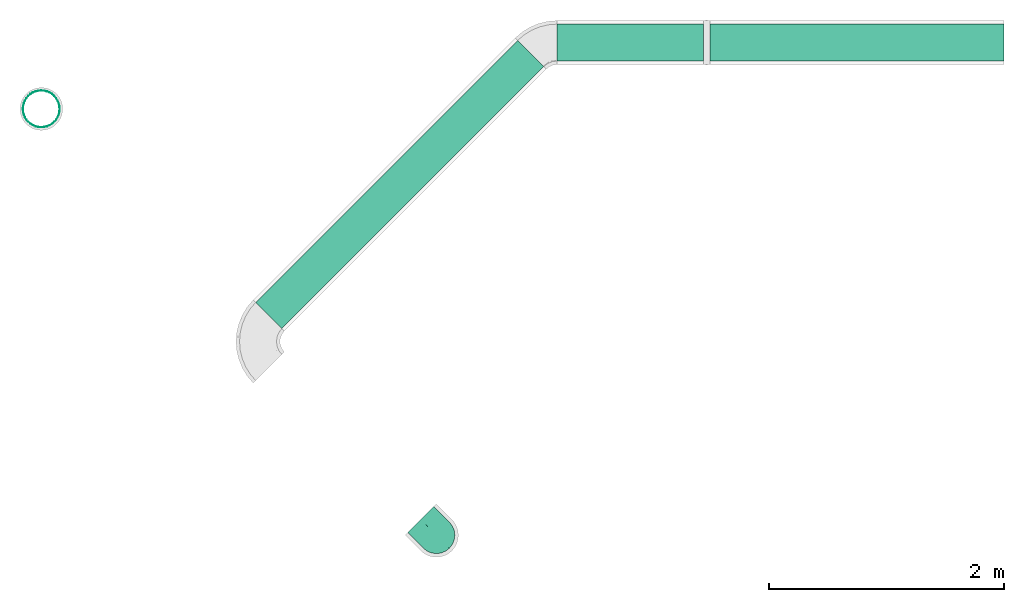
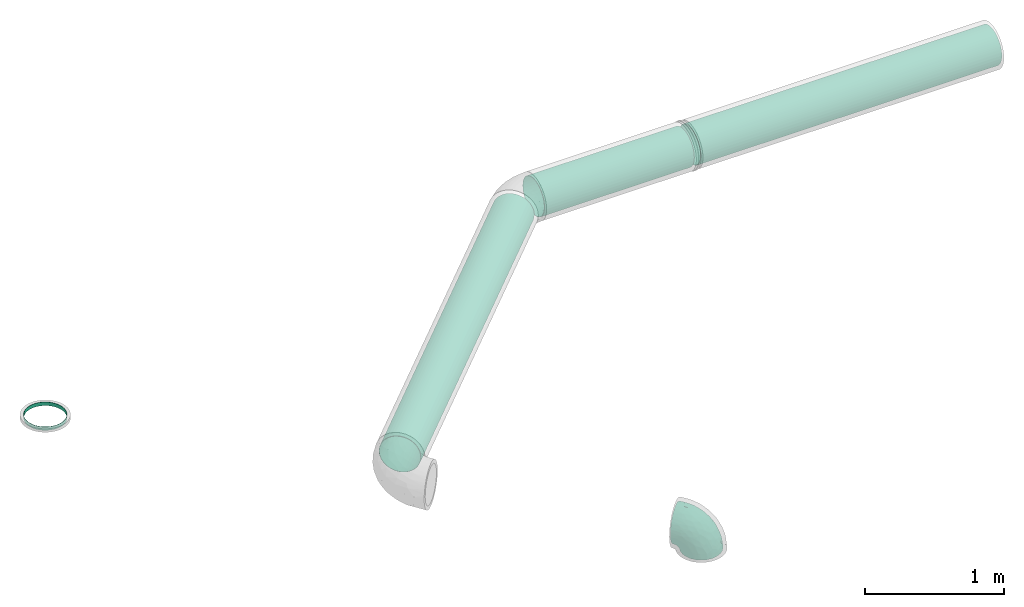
# One storey, part 5 of 7: 4 flow segments, 1 flow fitting.
"""IFC2X3 building model written with IfcOpenShell, lengths in millimetres."""

import ifcopenshell
import ifcopenshell.guid

model = None  # the IFC model being written
_history = None  # IfcOwnerHistory: only IFC2X3 demands one
_inside = {}  # id of a spatial element -> (the spatial element, [elements in it])
_under = {}  # id of a project, library or spatial element -> (it, [spatial elements below it])
_declared = {}  # id of a project -> (the project, [libraries it declares])
_typed = {}  # id of a type object -> (the type object, [elements of that type])
_made_of = {}  # id of a material, layer set ... -> (it, [elements and type objects made of it])


def new_model(schema):
    """Start an empty IFC model of exactly this schema.

    Asked for "IFC4X3", IfcOpenShell would pick the latest addendum, in which some entities
    have other attributes; the version numbers below select the first issue.
    IFC2X3 requires an IfcOwnerHistory on every rooted entity: one is made here for all.
    """
    global model, _history
    if schema == "IFC4X3":
        model = ifcopenshell.file(schema_version=(4, 3, 0, 0))
    else:
        model = ifcopenshell.file(schema=schema)
    _inside.clear()
    _under.clear()
    _declared.clear()
    _typed.clear()
    _made_of.clear()
    _history = None
    if model.schema == "IFC2X3":
        org = make("IfcOrganization", Name="unknown")
        user = make(
            "IfcPersonAndOrganization",
            ThePerson=make("IfcPerson", FamilyName="unknown"),
            TheOrganization=org,
        )
        app = make(
            "IfcApplication",
            ApplicationDeveloper=org,
            Version="unknown",
            ApplicationFullName="unknown",
            ApplicationIdentifier="unknown",
        )
        _history = make(
            "IfcOwnerHistory",
            OwningUser=user,
            OwningApplication=app,
            ChangeAction="ADDED",
            CreationDate=0,
        )
    return model


def make(cls, **values):
    """One entity of the class cls with the attributes given. An attribute that is None is left unset."""
    return model.create_entity(
        cls, **{name: value for name, value in values.items() if value is not None}
    )


def entity(cls, *values):
    """Any entity or typed value of the class cls, its attributes in the order of the schema. None: left unset."""
    e = model.create_entity(cls)
    for i, value in enumerate(values):
        if value is not None:
            e[i] = value
    return e


def rooted(cls, **values):
    """An entity with a GlobalId (a new one), such as an element, a storey or a relation."""
    return make(cls, GlobalId=ifcopenshell.guid.new(), OwnerHistory=_history, **values)


def si_unit(unit_type, name, prefix=None):
    """IfcSIUnit, for example si_unit("LENGTHUNIT", "METRE", prefix="MILLI")."""
    return make("IfcSIUnit", UnitType=unit_type, Prefix=prefix, Name=name)


def converted_unit(unit_type, name, factor, base, dimensions=None, offset=None):
    """IfcConversionBasedUnit, such as the inch: factor (a typed value) times the base unit."""
    return make(
        "IfcConversionBasedUnit"
        if offset is None
        else "IfcConversionBasedUnitWithOffset",
        ConversionOffset=offset,
        Dimensions=None
        if dimensions is None
        else entity("IfcDimensionalExponents", *dimensions),
        UnitType=unit_type,
        Name=name,
        ConversionFactor=make(
            "IfcMeasureWithUnit", ValueComponent=factor, UnitComponent=base
        ),
    )


def derived_unit(unit_type, elements):
    """IfcDerivedUnit: a product of units, each with its exponent."""
    return make(
        "IfcDerivedUnit",
        Elements=[
            make("IfcDerivedUnitElement", Unit=unit, Exponent=power)
            for unit, power in elements
        ],
        UnitType=unit_type,
    )


def assignment(units):
    """IfcUnitAssignment: the units of a project."""
    return None if units is None else make("IfcUnitAssignment", Units=units)


def point(xyz):
    """IfcCartesianPoint."""
    return None if xyz is None else make("IfcCartesianPoint", Coordinates=xyz)


def direction(xyz):
    """IfcDirection."""
    return None if xyz is None else make("IfcDirection", DirectionRatios=xyz)


def frame(location, z_axis=None, x_axis=None):
    """IfcAxis2Placement3D, a coordinate frame: its origin and axes. An axis left out is left unset."""
    return make(
        "IfcAxis2Placement3D",
        Location=point(location),
        Axis=direction(z_axis),
        RefDirection=direction(x_axis),
    )


def frame_2d(location, x_axis=None):
    """IfcAxis2Placement2D, a coordinate frame in the plane: its origin and x axis."""
    return make(
        "IfcAxis2Placement2D", Location=point(location), RefDirection=direction(x_axis)
    )


def origin_with_axes():
    """The frame at (0, 0, 0) with the z axis (0, 0, 1) and the x axis (1, 0, 0) written out."""
    return frame((0.0, 0.0, 0.0), z_axis=(0.0, 0.0, 1.0), x_axis=(1.0, 0.0, 0.0))


def origin_2d_with_axis():
    """The frame at (0, 0) in the plane with the x axis (1, 0) written out."""
    return frame_2d((0.0, 0.0), x_axis=(1.0, 0.0))


def place(relative_to, where):
    """IfcLocalPlacement: puts the frame where relative to a parent placement (None: the world)."""
    return make(
        "IfcLocalPlacement", PlacementRelTo=relative_to, RelativePlacement=where
    )


def context(
    kind, dimensions, precision=None, world=None, true_north=None, identifier=None
):
    """IfcGeometricRepresentationContext, for example the 3D "Model" context."""
    return make(
        "IfcGeometricRepresentationContext",
        ContextIdentifier=identifier,
        ContextType=kind,
        CoordinateSpaceDimension=dimensions,
        Precision=precision,
        WorldCoordinateSystem=world,
        TrueNorth=true_north,
    )


def subcontext(parent, identifier, kind, view, scale=None):
    """IfcGeometricRepresentationSubContext, for example "Body" below "Model"."""
    return make(
        "IfcGeometricRepresentationSubContext",
        ContextIdentifier=identifier,
        ContextType=kind,
        ParentContext=parent,
        TargetScale=scale,
        TargetView=view,
    )


def project(units=None, contexts=None):
    """IfcProject with its units and contexts."""
    return rooted(
        "IfcProject",
        Name="project",
        RepresentationContexts=contexts,
        UnitsInContext=assignment(units),
    )


def spatial(cls, under=None, at=None, **own):
    """A site, building, storey or space (cls), placed at a placement, below another one or the project."""
    s = rooted(cls, ObjectPlacement=at, **own)
    if under is not None:
        _under.setdefault(under.id(), (under, []))[1].append(s)
    return s


def profile(cls, at=None, kind="AREA", **sizes):
    """A parametric profile (cls). Its sizes go by their IFC names, for example OverallWidth=200.0."""
    return make(cls, ProfileType=kind, Position=at, **sizes)


def hollow_circle(**sizes):
    """IfcCircleHollowProfileDef."""
    return profile("IfcCircleHollowProfileDef", **sizes)


def extrude(swept, where, along, depth):
    """IfcExtrudedAreaSolid: the profile swept, set in the frame where, extruded along a direction by depth."""
    return make(
        "IfcExtrudedAreaSolid",
        SweptArea=swept,
        Position=where,
        ExtrudedDirection=direction(along),
        Depth=depth,
    )


def faces_of(points, faces, orient=None, outer=None):
    """IfcFace entities. A face is a list of loops; a loop is a list of indices into points, from 0.

    orient and outer hold one flag for each loop. By default every Orientation is true, the
    first loop of a face is its IfcFaceOuterBound and the others are IfcFaceBound.
    """
    made = []
    for i, loops in enumerate(faces):
        bounds = []
        for j, loop in enumerate(loops):
            is_outer = j == 0 if outer is None else outer[i][j]
            bounds.append(
                make(
                    "IfcFaceOuterBound" if is_outer else "IfcFaceBound",
                    Bound=make("IfcPolyLoop", Polygon=[points[k] for k in loop]),
                    Orientation=True if orient is None else orient[i][j],
                )
            )
        made.append(make("IfcFace", Bounds=bounds))
    return made


def open_shell(faces, orient=None, outer=None):
    """The faces of one IfcOpenShell. surface_model builds it on its shared points."""
    return ("IfcOpenShell", faces, orient, outer)


def surface_model(cls, points, shells):
    """IfcFaceBasedSurfaceModel or IfcShellBasedSurfaceModel (cls): surfaces that need not close."""
    shared = [point(p) for p in points]
    made = [make(c, CfsFaces=faces_of(shared, fs, o, b)) for c, fs, o, b in shells]
    if cls == "IfcFaceBasedSurfaceModel":
        return make(cls, FbsmFaces=made)
    return make(cls, SbsmBoundary=made)


def shape(context_of_items, identifier, shape_type, items):
    """IfcShapeRepresentation: the items that make up one representation, for example the "Body"."""
    return make(
        "IfcShapeRepresentation",
        ContextOfItems=context_of_items,
        RepresentationIdentifier=identifier,
        RepresentationType=shape_type,
        Items=items,
    )


def source(mapping_origin, context_of_items, identifier, shape_type, items):
    """IfcRepresentationMap: a shape defined once, which mapped items show again and again."""
    return make(
        "IfcRepresentationMap",
        MappingOrigin=mapping_origin,
        MappedRepresentation=shape(context_of_items, identifier, shape_type, items),
    )


def transform(
    local_origin,
    x_axis=None,
    y_axis=None,
    z_axis=None,
    scale=None,
    scale2=None,
    scale3=None,
    uniform=True,
):
    """IfcCartesianTransformationOperator3D, or its non-uniform kind. x_axis, y_axis, z_axis: its Axis1, 2, 3."""
    if uniform:
        return make(
            "IfcCartesianTransformationOperator3D",
            Axis1=direction(x_axis),
            Axis2=direction(y_axis),
            LocalOrigin=point(local_origin),
            Scale=scale,
            Axis3=direction(z_axis),
        )
    return make(
        "IfcCartesianTransformationOperator3DnonUniform",
        Axis1=direction(x_axis),
        Axis2=direction(y_axis),
        LocalOrigin=point(local_origin),
        Scale=scale,
        Axis3=direction(z_axis),
        Scale2=scale2,
        Scale3=scale3,
    )


def mapped(mapping_source, mapping_target):
    """IfcMappedItem: shows the shape of a source again, moved by a transform."""
    return make(
        "IfcMappedItem", MappingSource=mapping_source, MappingTarget=mapping_target
    )


def made_of(thing, what):
    """Note that an element or type object is made of a material, layer set ...; save() writes the relation."""
    if what is not None:
        _made_of.setdefault(what.id(), (what, []))[1].append(thing)
    return thing


def type_object(cls, material=None, **own):
    """A type object (cls), such as IfcWallType, which elements share."""
    return made_of(rooted(cls, **own), material)


def element(
    cls,
    number,
    at=None,
    inside=None,
    cuts=None,
    type_object=None,
    material=None,
    context=None,
    identifier="Body",
    shape_type=None,
    held_by="IfcProductDefinitionShape",
    body=None,
    shapes=None,
    **own,
):
    """One element of the class cls, such as IfcWall. Its Tag is "e" and its number.

    at: its placement. inside: the storey or other place that contains it. cuts: it is an
    opening in that element (IfcRelVoidsElement). A single representation is given by context,
    identifier, shape_type and body (its items); several are given by shapes. held_by: the class
    of the entity that holds the representations. save() writes the other relations.
    """
    e = rooted(cls, Tag="e%d" % number, ObjectPlacement=at, **own)
    if body is not None:
        shapes = [shape(context, identifier, shape_type, body)]
    if shapes is not None:
        e.Representation = make(held_by, Representations=shapes)
    if inside is not None:
        _inside.setdefault(inside.id(), (inside, []))[1].append(e)
    if cuts is not None:
        rooted(
            "IfcRelVoidsElement", RelatingBuildingElement=cuts, RelatedOpeningElement=e
        )
    if type_object is not None:
        _typed.setdefault(type_object.id(), (type_object, []))[1].append(e)
    return made_of(e, material)


def aggregate(whole, parts):
    """IfcRelAggregates: a whole, such as a stair, and the parts it consists of."""
    return rooted("IfcRelAggregates", RelatingObject=whole, RelatedObjects=parts)


def save(model, path):
    """Write the relations noted so far, then the file.

    IfcRelAggregates (storeys below a building ...), IfcRelContainedInSpatialStructure (elements
    in a storey), IfcRelDefinesByType, IfcRelAssociatesMaterial and IfcRelDeclares: one each for
    every whole, place, type object, material and project.
    """
    for whole, parts in _under.values():
        aggregate(whole, parts)
    for where, things in _inside.values():
        rooted(
            "IfcRelContainedInSpatialStructure",
            RelatedElements=things,
            RelatingStructure=where,
        )
    for kind, things in _typed.values():
        rooted("IfcRelDefinesByType", RelatedObjects=things, RelatingType=kind)
    for what, things in _made_of.values():
        rooted("IfcRelAssociatesMaterial", RelatedObjects=things, RelatingMaterial=what)
    for by, libraries in _declared.values():
        rooted("IfcRelDeclares", RelatingContext=by, RelatedDefinitions=libraries)
    model.write(path)


model = new_model("IFC2X3")

# Units and contexts
model_context = context("Model", 3, precision=0.01, world=frame((0.0, 4.29681676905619e-09, 0.0)), true_north=direction((4.01073788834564e-13, 1.0)))
plan_context = context("Plan", 3, precision=0.01, world=frame((0.0, 4.29681676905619e-09, 0.0)), true_north=direction((4.01073788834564e-13, 1.0)))
body_context = subcontext(model_context, "Body", "Model", "MODEL_VIEW")
ifc_project = project(units=[converted_unit("PLANEANGLEUNIT", "DEGREE", entity("IfcPositiveLengthMeasure", 0.0174532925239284), si_unit("PLANEANGLEUNIT", "RADIAN"), dimensions=[0, 0, 0, 0, 0, 0, 0]), si_unit("AREAUNIT", "SQUARE_METRE"), si_unit("LENGTHUNIT", "METRE", prefix="MILLI"), si_unit("MASSUNIT", "GRAM", prefix="KILO"), si_unit("POWERUNIT", "WATT"), si_unit("PRESSUREUNIT", "PASCAL", prefix="KILO"), si_unit("FORCEUNIT", "NEWTON", prefix="KILO"), si_unit("ELECTRICVOLTAGEUNIT", "VOLT"), si_unit("ELECTRICCURRENTUNIT", "AMPERE"), si_unit("THERMODYNAMICTEMPERATUREUNIT", "DEGREE_CELSIUS"), si_unit("TIMEUNIT", "SECOND"), si_unit("VOLUMEUNIT", "CUBIC_METRE"), derived_unit("LINEARVELOCITYUNIT", [(si_unit("LENGTHUNIT", "METRE"), 1), (si_unit("TIMEUNIT", "SECOND"), -1)]), derived_unit("VOLUMETRICFLOWRATEUNIT", [(si_unit("VOLUMEUNIT", "CUBIC_METRE"), 1), (si_unit("TIMEUNIT", "SECOND"), -1)]), derived_unit("THERMALTRANSMITTANCEUNIT", [(si_unit("POWERUNIT", "WATT"), 1), (si_unit("THERMODYNAMICTEMPERATUREUNIT", "KELVIN"), -1), (si_unit("AREAUNIT", "SQUARE_METRE"), -1)]), derived_unit("SOUNDPRESSUREUNIT", [(si_unit("PRESSUREUNIT", "PASCAL"), 1)])], contexts=[model_context, plan_context])

# Site, building, storey
site_placement = place(None, frame((0.0, -4.29681676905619e-09, 0.0), z_axis=(0.0, 0.0, 1.0), x_axis=(1.0, 0.0, 0.0)))
site = spatial("IfcSite", under=ifc_project, at=site_placement, CompositionType="ELEMENT")
building_placement = place(site_placement, frame((0.0, 4.29681676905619e-09, 0.0), z_axis=(0.0, 0.0, 1.0), x_axis=(1.0, 0.0, 0.0)))
building = spatial("IfcBuilding", under=site, at=building_placement, Name="mc-building", CompositionType="ELEMENT")
storey_placement = place(building_placement, frame((0.0, 0.0, 207370.0), z_axis=(0.0, 0.0, 1.0), x_axis=(1.0, 0.0, 0.0)))
storey = spatial("IfcBuildingStorey", under=building, at=storey_placement, Name="Nivå E", CompositionType="ELEMENT", Elevation=207370.0)

# Flow fitting
duct_fitting_type = type_object("IfcDuctFittingType", Name="magicirc_elbow_short_001", PredefinedType="BEND")
shared_shape_1 = source(origin_with_axes(), body_context, "Body", "SurfaceModel", [
    surface_model("IfcShellBasedSurfaceModel", [(-189.0, 78.75, -136.39901), (-189.0, 40.764, -152.13332), (-189.0, 0.0, -157.5), (-189.0, 111.36932, -111.36932), (-189.0, 152.13332, -40.764), (-189.0, 136.39901, -78.75), (-189.0, -78.75, -136.39901), (-189.0, -111.36932, -111.36932), (-189.0, -40.764, -152.13332), (-189.0, -152.13332, -40.764), (-189.0, -136.39901, -78.75), (-189.0, -157.5, 0.0), (-189.0, -152.13332, 40.764), (-189.0, 136.39901, 78.75), (-189.0, 152.13332, 40.764), (-189.0, 111.36932, 111.36932), (-189.0, 78.75, 136.39901), (-189.0, -136.39901, 78.75), (-189.0, -111.36932, 111.36932), (-189.0, -78.75, 136.39901), (-189.0, -40.764, 152.13332), (-189.0, 0.0, 157.5), (-189.0, 40.764, 152.13332), (0.0, 189.0, -157.5), (-40.764, 189.0, -152.13332), (-78.75, 189.0, -136.39901), (-111.36932, 189.0, -111.36932), (-136.39901, 189.0, -78.75), (-152.13332, 189.0, -40.764), (152.13332, 189.0, 40.764), (152.13332, 189.0, -40.764), (40.764, 189.0, -152.13332), (111.36932, 189.0, -111.36932), (78.75, 189.0, -136.39901), (136.39901, 189.0, -78.75), (157.5, 189.0, 0.0), (-152.13332, 189.0, 40.764), (-111.36932, 189.0, 111.36932), (-136.39901, 189.0, 78.75), (-78.75, 189.0, 136.39901), (-40.764, 189.0, 152.13332), (111.36932, 189.0, 111.36932), (136.39901, 189.0, 78.75), (40.764, 189.0, 152.13332), (78.75, 189.0, 136.39901), (0.0, 189.0, 157.5), (-157.5, 189.0, 0.0), (-146.82647, -148.73404, 43.55813), (-152.53698, -154.30989, 0.0), (-128.83091, -152.23588, 0.0), (49.033, 86.74286, 141.05575), (73.96756, 50.08962, 114.25948), (80.71898, 84.48868, 121.46737), (93.7561, -8.98795, 0.0), (68.80167, -29.22878, 51.72126), (76.4344, -33.72591, 0.0), (-97.37792, -140.80841, 36.13658), (-99.66046, -144.41969, 0.0), (-85.08944, 153.36086, 136.16868), (-70.49002, -136.60349, 0.0), (-52.11329, -124.77074, 36.00089), (-140.73024, -35.43399, 152.18621), (-160.5858, -130.32816, 86.54689), (-138.12227, -106.88194, 111.51409), (-121.65457, -76.11965, 132.88842), (-160.87463, -69.15915, 140.74672), (-25.25045, -109.00671, 44.67122), (-15.75, -111.0778, 0.0), (8.98795, -93.7561, 0.0), (35.48323, 140.48111, 152.15935), (-105.77141, -98.25391, 112.65537), (-125.05707, 110.33905, 130.87226), (-118.33723, 141.04327, 118.63047), (-140.45256, 132.57189, 108.08216), (-84.20627, -128.87676, 59.80247), (-42.24478, 37.80735, 155.99735), (-76.09851, 23.47671, 157.08968), (-21.97676, 5.08153, 145.85286), (-148.3241, 46.79067, 152.04619), (-141.07596, 83.6671, 139.4155), (-169.61846, 88.65571, 131.42231), (-149.86377, 7.0178, 157.47409), (-164.24817, 142.27922, 79.21812), (-38.90905, -74.51537, 108.39982), (-21.51185, -31.1381, 130.88448), (-78.48781, -47.09871, 140.242), (-158.04301, 118.06714, 111.13197), (-161.49592, 161.49592, 47.69938), (-189.0, 157.5, 0.0), (-173.25, 161.7202, 0.0), (-71.14672, 117.54032, 148.95444), (-48.53381, 80.38159, 157.08422), (-38.0499, 105.94603, 156.61108), (-107.82752, -27.46831, 151.74483), (25.98079, -68.52928, 57.91101), (-2.49207, -89.842, 57.91101), (18.17919, -85.25948, 29.47632), (106.91243, 137.86518, 111.44051), (107.98856, 76.77233, 91.09139), (132.43407, 110.53889, 68.40105), (98.22703, 106.22366, 112.80306), (49.87623, -56.82814, 34.06048), (76.2184, 120.66886, 132.67152), (69.30601, 160.29705, 140.64149), (148.73404, 146.82647, 43.55813), (136.44937, 149.61971, 74.39319), (141.15744, 96.23303, 33.28536), (154.30989, 152.53698, 0.0), (-79.14709, -78.07857, 121.85468), (-142.50673, 156.96891, 85.08305), (-6.25371, 146.56094, 157.49386), (-119.18069, 168.29594, 106.34604), (-7.7712, 37.9551, 150.34868), (-161.7202, 173.25, 0.0), (20.73863, 22.80421, 136.4838), (45.79638, 11.43074, 117.05167), (46.64669, 45.96804, 131.51649), (17.71633, 115.68288, 154.55145), (-44.71298, 135.75281, 153.51583), (124.10348, 54.99065, 42.78832), (19.23744, 59.23612, 147.07076), (-59.757, 189.0, 144.26616), (-40.39445, 162.15387, 152.84988), (-106.89705, 54.01286, 154.41806), (42.62384, -42.62385, 74.87208), (-103.67825, -119.29128, 87.6164), (-122.10302, -132.77719, 72.81501), (-74.73976, -107.05822, 91.29409), (-58.68494, -13.38955, 148.76775), (-33.42967, -98.98136, 75.3332), (-12.93373, -80.09293, 85.03047), (-57.45365, -116.48754, 64.67941), (144.41969, 99.66046, 0.0), (63.28555, -3.7111, 91.11734), (26.66288, -18.86236, 112.20397), (-88.20665, 88.20664, 150.49261), (-99.84608, 118.68975, 138.24779), (89.842, 2.49207, 57.91101), (107.83801, 32.48682, 57.64226), (89.5215, 29.9536, 86.32806), (-17.27408, 120.20724, 157.449), (103.18655, 7.97929, 29.47632), (136.60349, 70.49002, 0.0), (4.52175, -58.17888, 95.91834), (-25.69452, 61.39509, 156.43932), (-0.8953, 89.70214, 155.70588), (-71.774, 57.87122, 156.95328), (111.0778, 15.75, 0.0), (123.84065, 43.12001, 0.0), (-128.59823, 21.61394, 157.11194), (-102.54228, 0.8839, 156.46427), (-43.12001, -123.84065, 0.0), (152.23588, 128.83091, 0.0), (33.72591, -76.4344, 0.0), (55.08015, -55.08015, 0.0), (3.04001, -8.98392, 131.40941), (-149.37334, 6.90093, -157.47789), (-127.65053, 19.54445, -157.25505), (-101.63434, 0.86217, -156.41758), (-149.881, 117.88366, -114.79529), (-168.97769, 112.18181, -113.09611), (-171.44166, 138.11591, -80.8385), (-97.65829, -53.6841, -140.93797), (-128.71073, -75.30605, -134.41229), (-142.28639, -35.12049, -152.3525), (-14.53623, 14.53621, -146.53876), (19.21591, -10.56392, -122.16443), (-32.58138, -35.5269, -132.82409), (-161.49592, 161.49592, -47.69938), (-27.84596, 112.602, -157.13925), (-46.89661, 87.05932, -156.86637), (-54.76208, 116.09995, -153.27291), (24.54996, -65.39931, -65.68692), (62.53428, -39.64599, -45.03474), (42.35247, -61.80031, -40.474), (-85.22006, 154.17109, -135.94475), (-68.67661, 39.77392, -157.47698), (-96.27985, 86.46587, -149.09616), (-189.0, 59.757, -144.26616), (-164.33677, 41.04681, -152.5937), (-56.04714, 0.71063, -151.93473), (106.68579, 139.72934, -111.97263), (108.82999, 81.61939, -92.33309), (90.16092, 95.61076, -117.0636), (-143.49405, 167.03036, -75.05192), (-154.59868, 143.86665, -85.53345), (-146.82647, -148.73404, -43.55813), (-139.72934, -106.68579, -111.97263), (-158.69814, -78.71922, -135.41598), (-109.30616, -96.88101, -114.84542), (-154.17109, 85.22006, -135.94475), (-122.7277, 106.27562, -133.8534), (-97.06108, 118.571, -139.46376), (-124.29608, 79.85164, -144.73443), (-149.61972, -136.44937, -74.39319), (-96.23303, -141.15744, -33.28536), (-54.06704, -123.39932, -43.77526), (-110.5389, -132.43407, -68.40105), (-135.48821, 131.24593, -112.46181), (75.91681, 64.4352, -118.50759), (-107.08066, 157.86996, -120.54603), (32.57609, 42.69927, -137.66346), (59.9817, 10.07153, -104.76193), (75.30605, 128.71071, -134.41229), (53.6841, 97.65827, -140.93797), (35.1205, 142.28638, -152.3525), (-45.33369, 140.10537, -153.03377), (-41.04681, 164.33677, -152.5937), (-59.757, 189.0, -144.26616), (-189.0, 123.88416, -95.05966), (-6.90093, 149.37331, -157.47789), (101.88085, 6.10023, -30.06201), (83.56153, -18.18278, -35.84847), (88.95677, 3.68958, -61.33662), (-73.96886, 100.59351, -151.25205), (78.71922, 158.69814, -135.41597), (59.757, 189.0, -144.26616), (94.06788, 40.28144, -87.79988), (107.297, 31.95277, -58.22044), (148.73404, 146.82647, -43.55813), (136.44937, 149.61971, -74.39319), (25.69513, 78.83868, -148.56019), (52.78982, 64.18559, -133.79037), (141.15744, 96.23303, -33.28536), (123.39931, 54.06704, -43.77527), (-99.67042, 56.5784, -154.75725), (-81.6194, -108.82999, -92.33309), (-140.10539, 45.33368, -153.03377), (-64.43522, -75.91682, -118.50759), (-62.75607, -51.57693, -134.04781), (-14.17822, -66.28312, -101.5314), (65.05234, -15.13826, -77.86444), (37.80166, -37.80167, -86.30899), (132.43407, 110.53889, -68.40105), (16.73141, 123.34849, -155.1767), (-0.86217, 101.63431, -156.41758), (-125.84608, 166.17885, -99.79484), (-118.31036, 141.35192, -118.49872), (-13.21391, 58.80011, -154.66423), (-36.36222, 37.14521, -155.28703), (-112.79208, -24.56514, -152.90791), (-39.63577, -93.47058, -88.13749), (-6.61847, -102.14217, -30.33919), (-32.26173, -107.24999, -58.68616), (-135.56345, 151.20073, -97.68664), (-3.68958, -88.95677, -61.33662), (-0.69072, -39.04419, -115.81001), (-77.00417, -27.43387, -147.69846), (21.29912, -81.73119, -33.87707), (-189.0, 144.26616, -59.757), (-189.0, -59.757, -144.26616)], [open_shell([[[0, 1, 2]], [[3, 0, 2]], [[4, 5, 3]], [[6, 7, 8]], [[9, 8, 7]], [[10, 9, 7]], [[9, 2, 8]], [[11, 12, 9]], [[13, 14, 15]], [[16, 15, 12]], [[17, 18, 12]], [[18, 16, 12]], [[19, 20, 18]], [[21, 18, 20]], [[18, 21, 22]], [[23, 24, 25]], [[23, 25, 26]], [[26, 27, 28]], [[23, 26, 29]], [[30, 23, 29]], [[31, 32, 33]], [[32, 31, 30]], [[32, 30, 34]], [[31, 23, 30]], [[30, 29, 35]], [[28, 29, 26]], [[28, 36, 37]], [[37, 36, 38]], [[29, 37, 39]], [[37, 29, 28]], [[39, 40, 41]], [[29, 41, 42]], [[29, 39, 41]], [[41, 43, 44]], [[43, 41, 45]], [[40, 45, 41]], [[36, 28, 46]], [[47, 48, 49]], [[50, 51, 52]], [[53, 54, 55]], [[47, 12, 48]], [[56, 47, 57]], [[39, 37, 58]], [[56, 59, 60]], [[20, 61, 21]], [[62, 18, 17]], [[63, 64, 65]], [[66, 67, 68]], [[43, 45, 69]], [[47, 17, 12]], [[64, 63, 70]], [[71, 72, 73]], [[56, 60, 74]], [[75, 76, 77]], [[18, 63, 19]], [[78, 79, 80]], [[81, 22, 21]], [[61, 20, 65]], [[13, 82, 14]], [[83, 84, 85]], [[15, 86, 13]], [[87, 88, 14]], [[88, 87, 89]], [[90, 91, 92]], [[61, 85, 93]], [[16, 80, 15]], [[94, 95, 96]], [[46, 87, 36]], [[97, 98, 99]], [[65, 20, 19]], [[52, 98, 100]], [[94, 96, 101]], [[102, 69, 50]], [[43, 103, 44]], [[44, 97, 41]], [[104, 105, 106]], [[103, 69, 102]], [[104, 107, 29]], [[44, 103, 97]], [[106, 105, 99]], [[104, 29, 42]], [[108, 64, 70]], [[87, 82, 109]], [[45, 40, 110]], [[109, 111, 38]], [[86, 82, 13]], [[77, 112, 75]], [[100, 97, 102]], [[89, 87, 113]], [[114, 115, 116]], [[113, 87, 46]], [[16, 22, 78]], [[87, 109, 36]], [[110, 69, 45]], [[69, 110, 117]], [[58, 90, 118]], [[37, 38, 111]], [[15, 80, 86]], [[99, 98, 119]], [[116, 50, 120]], [[121, 39, 122]], [[39, 58, 122]], [[79, 78, 123]], [[62, 63, 18]], [[124, 101, 54]], [[125, 126, 74]], [[105, 97, 99]], [[85, 61, 64]], [[61, 93, 81]], [[127, 108, 70]], [[85, 84, 128]], [[129, 130, 83]], [[127, 125, 131]], [[104, 106, 132]], [[124, 133, 134]], [[81, 78, 22]], [[79, 123, 135]], [[71, 86, 79]], [[82, 86, 73]], [[111, 58, 37]], [[72, 71, 136]], [[137, 138, 139]], [[122, 40, 121]], [[110, 122, 140]], [[141, 138, 137]], [[106, 119, 142]], [[117, 50, 69]], [[143, 134, 84]], [[144, 120, 145]], [[135, 91, 90]], [[75, 91, 146]], [[128, 77, 76]], [[129, 127, 131]], [[94, 143, 130]], [[57, 59, 56]], [[62, 47, 126]], [[105, 104, 42]], [[119, 147, 148]], [[61, 81, 21]], [[149, 81, 150]], [[149, 123, 78]], [[146, 76, 75]], [[86, 71, 73]], [[14, 82, 87]], [[111, 109, 72]], [[36, 109, 38]], [[79, 135, 71]], [[136, 135, 90]], [[47, 49, 57]], [[60, 59, 151]], [[47, 56, 126]], [[66, 95, 129]], [[56, 74, 126]], [[132, 106, 142]], [[132, 152, 104]], [[119, 106, 99]], [[131, 74, 60]], [[74, 131, 125]], [[70, 125, 127]], [[63, 126, 125]], [[66, 131, 60]], [[131, 66, 129]], [[60, 67, 66]], [[68, 96, 66]], [[96, 153, 101]], [[153, 96, 68]], [[66, 96, 95]], [[101, 153, 154]], [[53, 141, 54]], [[101, 124, 94]], [[94, 124, 143]], [[134, 143, 124]], [[84, 83, 143]], [[54, 133, 124]], [[114, 77, 155]], [[130, 129, 95]], [[127, 129, 83]], [[139, 133, 137]], [[51, 116, 115]], [[94, 130, 95]], [[83, 130, 143]], [[55, 54, 101]], [[133, 54, 137]], [[149, 150, 76]], [[138, 141, 119]], [[119, 98, 138]], [[139, 98, 51]], [[98, 139, 138]], [[133, 139, 51]], [[136, 58, 72]], [[146, 91, 135]], [[144, 75, 112]], [[145, 140, 92]], [[72, 109, 73]], [[82, 73, 109]], [[42, 41, 105]], [[97, 105, 41]], [[135, 123, 146]], [[123, 149, 76]], [[123, 76, 146]], [[128, 76, 150]], [[128, 150, 93]], [[128, 84, 77]], [[155, 77, 84]], [[112, 77, 114]], [[120, 112, 114]], [[75, 144, 91]], [[116, 120, 114]], [[117, 120, 50]], [[114, 134, 115]], [[50, 116, 51]], [[134, 133, 115]], [[51, 115, 133]], [[120, 144, 112]], [[92, 144, 145]], [[135, 136, 71]], [[58, 136, 90]], [[84, 134, 155]], [[114, 155, 134]], [[12, 11, 48]], [[107, 104, 152]], [[107, 35, 29]], [[58, 111, 72]], [[69, 103, 43]], [[97, 103, 102]], [[47, 62, 17]], [[63, 62, 126]], [[63, 65, 19]], [[61, 65, 64]], [[78, 80, 16]], [[86, 80, 79]], [[122, 58, 118]], [[140, 122, 118]], [[110, 40, 122]], [[125, 70, 63]], [[108, 127, 83]], [[83, 85, 108]], [[85, 64, 108]], [[128, 93, 85]], [[81, 93, 150]], [[52, 100, 102]], [[98, 97, 100]], [[50, 52, 102]], [[98, 52, 51]], [[92, 140, 118]], [[117, 140, 145]], [[90, 92, 118]], [[92, 91, 144]], [[140, 117, 110]], [[117, 145, 120]], [[147, 119, 141]], [[148, 142, 119]], [[78, 81, 149]], [[67, 60, 151]], [[55, 101, 154]], [[156, 157, 158]], [[159, 160, 161]], [[162, 163, 164]], [[165, 166, 167]], [[2, 1, 156]], [[89, 168, 88]], [[169, 170, 171]], [[172, 173, 174]], [[25, 175, 26]], [[88, 168, 4]], [[176, 177, 170]], [[178, 0, 179]], [[176, 180, 158]], [[181, 182, 183]], [[168, 184, 185]], [[10, 186, 9]], [[187, 188, 189]], [[0, 3, 190]], [[186, 48, 9]], [[30, 35, 107]], [[177, 191, 192]], [[6, 187, 7]], [[193, 190, 191]], [[186, 194, 195]], [[59, 196, 151]], [[28, 184, 168]], [[163, 188, 8]], [[194, 197, 195]], [[159, 198, 191]], [[33, 32, 181]], [[168, 89, 113]], [[199, 183, 182]], [[46, 28, 168]], [[8, 2, 164]], [[200, 26, 175]], [[201, 202, 166]], [[203, 204, 205]], [[206, 175, 25]], [[207, 208, 24]], [[161, 160, 209]], [[23, 31, 205]], [[184, 28, 27]], [[55, 154, 173]], [[23, 210, 24]], [[211, 212, 213]], [[25, 208, 207]], [[177, 192, 214]], [[33, 215, 216]], [[217, 218, 213]], [[213, 218, 211]], [[186, 195, 57]], [[31, 216, 215]], [[219, 220, 34]], [[221, 204, 222]], [[132, 223, 219]], [[147, 211, 224]], [[107, 152, 219]], [[30, 107, 219]], [[193, 177, 225]], [[187, 226, 197]], [[161, 4, 168]], [[34, 30, 219]], [[227, 179, 0]], [[203, 205, 31]], [[228, 229, 230]], [[46, 168, 113]], [[202, 231, 232]], [[226, 196, 197]], [[220, 181, 32]], [[181, 233, 182]], [[203, 183, 204]], [[210, 234, 235]], [[156, 164, 2]], [[163, 162, 228]], [[189, 228, 226]], [[194, 187, 197]], [[160, 3, 209]], [[190, 159, 191]], [[170, 214, 171]], [[236, 200, 237]], [[238, 170, 169]], [[157, 225, 158]], [[239, 170, 238]], [[176, 239, 180]], [[194, 186, 10]], [[195, 196, 59]], [[132, 142, 223]], [[219, 223, 220]], [[1, 178, 179]], [[156, 158, 240]], [[205, 210, 23]], [[210, 235, 169]], [[224, 182, 233]], [[217, 199, 182]], [[228, 189, 163]], [[211, 218, 224]], [[230, 241, 228]], [[242, 196, 243]], [[226, 241, 243]], [[242, 67, 196]], [[27, 236, 184]], [[198, 185, 244]], [[244, 184, 236]], [[5, 161, 209]], [[57, 195, 59]], [[57, 49, 186]], [[196, 195, 197]], [[219, 152, 132]], [[224, 233, 223]], [[223, 233, 220]], [[222, 204, 199]], [[204, 221, 234]], [[201, 222, 202]], [[201, 165, 238]], [[202, 199, 217]], [[166, 202, 232]], [[241, 230, 245]], [[201, 166, 165]], [[246, 232, 230]], [[162, 247, 229]], [[158, 247, 240]], [[247, 158, 180]], [[246, 230, 167]], [[172, 230, 232]], [[243, 241, 245]], [[226, 228, 241]], [[26, 236, 27]], [[244, 236, 237]], [[26, 200, 236]], [[192, 200, 175]], [[198, 244, 237]], [[185, 184, 244]], [[237, 192, 191]], [[185, 198, 159]], [[237, 191, 198]], [[191, 177, 193]], [[200, 192, 237]], [[206, 171, 175]], [[225, 177, 176]], [[227, 190, 193]], [[158, 225, 176]], [[227, 193, 225]], [[192, 175, 171]], [[170, 177, 214]], [[171, 214, 192]], [[169, 171, 206]], [[210, 169, 206]], [[169, 235, 238]], [[243, 245, 242]], [[226, 243, 196]], [[248, 242, 245]], [[248, 68, 242]], [[245, 172, 248]], [[174, 153, 248]], [[248, 172, 174]], [[154, 153, 174]], [[173, 232, 231]], [[230, 172, 245]], [[173, 172, 232]], [[68, 248, 153]], [[68, 67, 242]], [[154, 174, 173]], [[10, 7, 194]], [[187, 194, 7]], [[181, 220, 233]], [[32, 34, 220]], [[238, 235, 221]], [[239, 238, 165]], [[218, 182, 224]], [[202, 217, 213]], [[182, 218, 217]], [[224, 142, 148]], [[211, 147, 53]], [[212, 173, 231]], [[53, 212, 211]], [[212, 53, 55]], [[55, 173, 212]], [[48, 186, 49]], [[48, 11, 9]], [[4, 161, 249]], [[159, 190, 160]], [[190, 3, 160]], [[215, 203, 31]], [[33, 181, 215]], [[181, 203, 215]], [[163, 8, 164]], [[227, 0, 190]], [[157, 179, 227]], [[156, 1, 179]], [[207, 210, 206]], [[210, 207, 24]], [[25, 207, 206]], [[165, 167, 180]], [[228, 162, 229]], [[167, 247, 180]], [[240, 162, 164]], [[162, 240, 247]], [[156, 240, 164]], [[247, 167, 229]], [[230, 229, 167]], [[179, 157, 156]], [[225, 157, 227]], [[210, 205, 234]], [[204, 234, 205]], [[204, 183, 199]], [[181, 183, 203]], [[142, 224, 223]], [[148, 147, 224]], [[226, 187, 189]], [[196, 67, 151]], [[161, 168, 185]], [[161, 5, 249]], [[159, 161, 185]], [[202, 222, 199]], [[221, 222, 201]], [[238, 221, 201]], [[221, 235, 234]], [[202, 213, 231]], [[231, 213, 212]], [[167, 166, 246]], [[232, 246, 166]], [[180, 239, 165]], [[170, 239, 176]], [[2, 4, 3]], [[9, 4, 2]], [[88, 4, 9]], [[15, 14, 9]], [[12, 15, 9]], [[16, 18, 22]], [[88, 9, 14]], [[137, 54, 141]], [[53, 147, 141]], [[188, 187, 6]], [[188, 6, 250]], [[8, 188, 250]], [[188, 163, 189]]])]),
])
flow_fitting_placement = place(storey_placement, frame((600701.00455, 400750.8939, 120.0), z_axis=(0.707106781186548, 0.707106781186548, 0.0), x_axis=(0.707106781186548, -0.707106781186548, 0.0)))
element("IfcFlowFitting", 1, at=flow_fitting_placement, inside=storey, type_object=duct_fitting_type, Name="magicirc_elbow_short_001", context=body_context, shape_type="MappedRepresentation", body=[
    mapped(shared_shape_1, transform((0.0, 0.0, 0.0), scale=1.0)),
])

# Flow segments
duct_segment_type_1 = type_object("IfcDuctSegmentType", Name="KK001T - Spiro kanaler, Forsinket stål", PredefinedType="RIGIDSEGMENT")
shared_shape_2 = source(origin_with_axes(), body_context, "Body", "SweptSolid", [
    extrude(hollow_circle(Radius=157.5, WallThickness=2.0, at=origin_2d_with_axis()), frame((0.0, 0.0, 0.0), z_axis=(1.0, 0.0, 0.0), x_axis=(0.0, 1.0, 0.0)), (0.0, 0.0, 1.0), 3159.7),
])
flow_segment_1_placement = place(storey_placement, frame((599272.11348, 402625.26225, 120.0), z_axis=(0.0, 0.0, 1.0), x_axis=(0.707106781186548, 0.707106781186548, 0.0)))
element("IfcFlowSegment", 2, at=flow_segment_1_placement, inside=storey, type_object=duct_segment_type_1, Name="KK001T - Spiro kanaler, Forsinket stål", context=body_context, shape_type="MappedRepresentation", body=[
    mapped(shared_shape_2, transform((0.0, 0.0, 0.0), scale=1.0)),
])
shared_shape_3 = source(origin_with_axes(), body_context, "Body", "SweptSolid", [
    extrude(hollow_circle(Radius=157.5, WallThickness=2.0, at=origin_2d_with_axis()), frame((0.0, 0.0, 0.0), z_axis=(1.0, 0.0, 0.0), x_axis=(0.0, 1.0, 0.0)), (0.0, 0.0, 1.0), 1248.5),
])
flow_segment_2_placement = place(storey_placement, frame((602977.61721, 404951.79391, 120.0), z_axis=(0.0, 0.0, 1.0), x_axis=(-1.0, 0.0, 0.0)))
element("IfcFlowSegment", 3, at=flow_segment_2_placement, inside=storey, type_object=duct_segment_type_1, Name="KK001T - Spiro kanaler, Forsinket stål", context=body_context, shape_type="MappedRepresentation", body=[
    mapped(shared_shape_3, transform((0.0, 0.0, 0.0), scale=1.0)),
])
duct_segment_type_2 = type_object("IfcDuctSegmentType", Name="Sirkulær kanal", PredefinedType="RIGIDSEGMENT")
shared_shape_4 = source(origin_with_axes(), body_context, "Body", "SweptSolid", [
    extrude(hollow_circle(Radius=157.5, WallThickness=2.0, at=origin_2d_with_axis()), frame((0.0, 0.0, 0.0), z_axis=(1.0, 0.0, 0.0), x_axis=(0.0, 1.0, 0.0)), (0.0, 0.0, 1.0), 31.0),
])
flow_segment_3_placement = place(storey_placement, frame((597332.0, 404386.04214, 50.0), z_axis=(0.0, 1.0, 0.0), x_axis=(0.0, 0.0, 1.0)))
element("IfcFlowSegment", 4, at=flow_segment_3_placement, inside=storey, type_object=duct_segment_type_2, Name="Sirkulær kanal", context=body_context, shape_type="MappedRepresentation", body=[
    mapped(shared_shape_4, transform((0.0, 0.0, 0.0), scale=1.0)),
])
shared_shape_5 = source(origin_with_axes(), body_context, "Body", "SweptSolid", [
    extrude(hollow_circle(Radius=157.5, WallThickness=2.0, at=origin_2d_with_axis()), frame((0.0, 0.0, 0.0), z_axis=(1.0, 0.0, 0.0), x_axis=(0.0, 1.0, 0.0)), (0.0, 0.0, 1.0), 2509.3),
])
flow_segment_4_placement = place(storey_placement, frame((603032.61721, 404951.79391, 120.0), z_axis=(0.0, 0.0, 1.0), x_axis=(1.0, 0.0, 0.0)))
element("IfcFlowSegment", 5, at=flow_segment_4_placement, inside=storey, type_object=duct_segment_type_1, Name="KK001T - Spiro kanaler, Forsinket stål", context=body_context, shape_type="MappedRepresentation", body=[
    mapped(shared_shape_5, transform((0.0, 0.0, 0.0), scale=1.0)),
])

save(model, "model.ifc")
